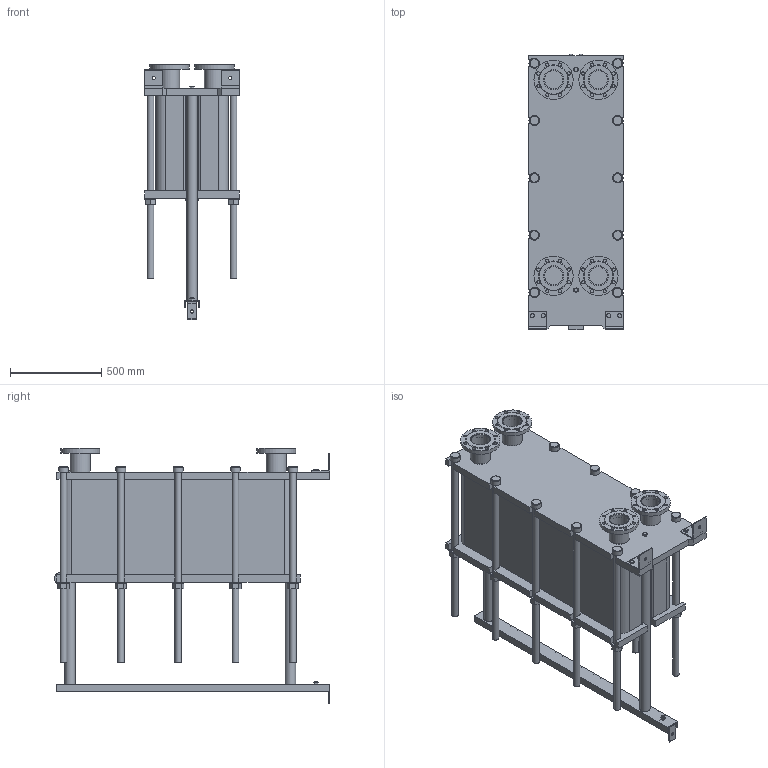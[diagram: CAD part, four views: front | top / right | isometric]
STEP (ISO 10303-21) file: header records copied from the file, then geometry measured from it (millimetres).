
FILE_DESCRIPTION(/* description */ (''),/* implementation_level */ '2;1');
FILE_NAME(/* name */ 'C:\Users\zhuro\Desktop\ENCO\TO\ЭН-04\ЭН-0,5-04-152-1.stp',/* time_stamp */ '2022-06-06T10:58:56+03:00',/* author */ ('zhuro'),/* organization */ (''),/* preprocessor_version */ 'ST-DEVELOPER v18.1',/* originating_system */ 'Autodesk Inventor 2022',/* authorisation */ '');
FILE_SCHEMA (('AUTOMOTIVE_DESIGN { 1 0 10303 214 3 1 1 }'));
Length unit declared in the file: millimetre
Products named in the file (1): ЭН-0,5-04-152-1
Bounding box: 520 x 1510 x 1401 mm (x, y, z)
Volume: 336077173.8 mm3; surface area: 9498746.9 mm2
Topology: 45 solids, 45 shells, 668 faces, 1611 edges, 1048 vertices
Faces by surface type: plane 457, cylinder 166, cone 39, torus 6
Full cylindrical faces by diameter (mm): 8 x4, 10 x2, 16 x8, 18 x35, 36 x25, 40 x2, 42 x1, 45 x4, 54 x10, 57 x2, 60 x10, 68 x2, 100 x4, 110 x8, 215 x4
Entity records: 23607 total; most frequent: CARTESIAN_POINT 7348, DIRECTION 3371, ORIENTED_EDGE 3142, EDGE_CURVE 1571, AXIS2_PLACEMENT_3D 1199, VERTEX_POINT 1044, LINE 973, VECTOR 973
